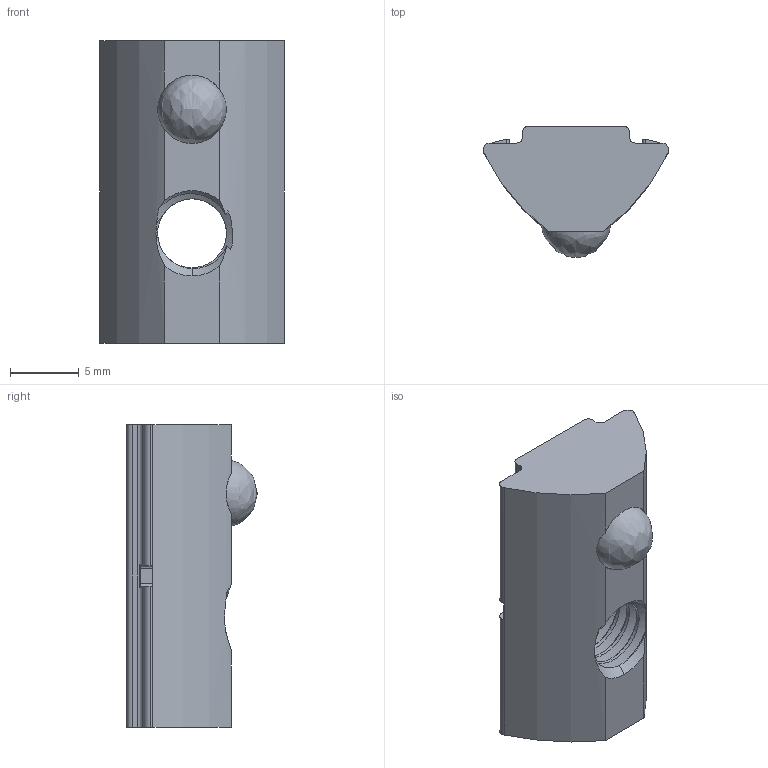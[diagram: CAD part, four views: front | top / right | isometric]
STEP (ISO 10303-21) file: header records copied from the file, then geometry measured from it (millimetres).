
FILE_DESCRIPTION (( 'STEP AP203' ), '1' );
FILE_NAME ('355042_Nutenstein 8 M6 einschwenkbar m. Kugel u. Steg m. ESD-Kerbe.step', '2022-11-24T09:08:12', ( '' ), ( '' ), 'SwSTEP 2.0', 'SolidWorks 2021', '' );
FILE_SCHEMA (( 'CONFIG_CONTROL_DESIGN' ));
Length unit declared in the file: millimetre
Products named in the file (1): 355042_Nutenstein 8 M6 einschwenkbar m. Kugel u. Steg m. ESD-Kerbe
Bounding box: 13.47 x 9.5 x 22 mm (x, y, z)
Volume: 1375.7 mm3; surface area: 1216.3 mm2
Topology: 1 solids, 2 shells, 91 faces, 249 edges, 161 vertices
Faces by surface type: cylinder 37, plane 35, cone 11, bspline 8
Entity records: 4919 total; most frequent: CARTESIAN_POINT 2680, ORIENTED_EDGE 498, DIRECTION 413, EDGE_CURVE 249, VERTEX_POINT 161, AXIS2_PLACEMENT_3D 148, VECTOR 117, LINE 117
